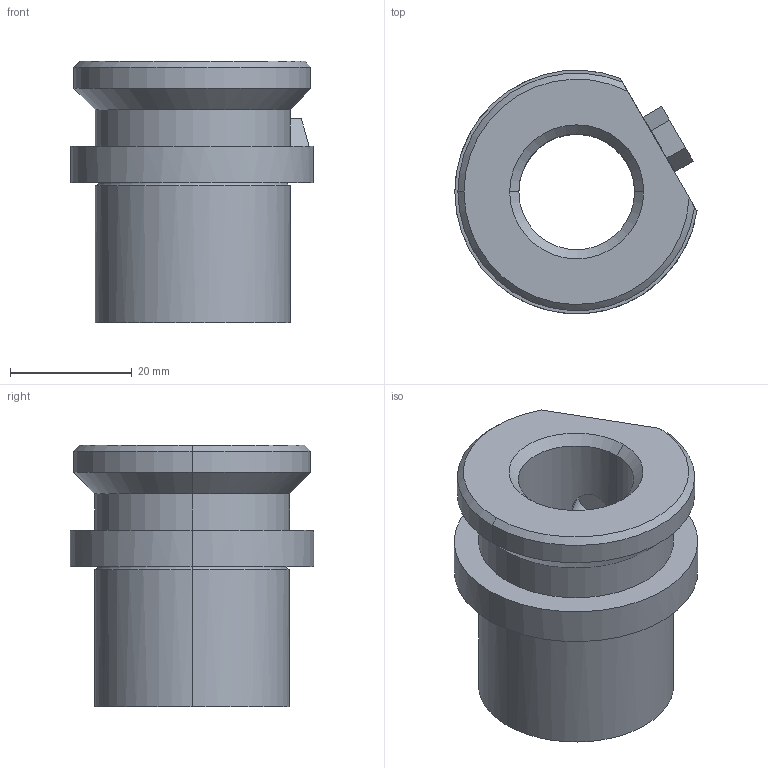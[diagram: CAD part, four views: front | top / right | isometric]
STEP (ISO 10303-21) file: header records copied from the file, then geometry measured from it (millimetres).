
FILE_DESCRIPTION(('CATIA V5 STEP Exchange'),'2;1');
FILE_NAME('C:\Users\Utente\Desktop\IO LAVORO\3D X SITO CF\X SITO\741\741-19.stp','2021-01-20T18:47:18+00:00',('none'),('none'),'CATIA Version 5 Release 20 GA (IN-10)','CATIA V5 STEP AP203','none');
FILE_SCHEMA(('CONFIG_CONTROL_DESIGN'));
Length unit declared in the file: millimetre
Products named in the file (1): 741-19
Assembly tree (1 placements, depth 2):
  741-19
    #58
Bounding box: 39.77 x 39.97 x 43 mm (x, y, z)
Volume: 26562.4 mm3; surface area: 9616.6 mm2
Topology: 1 solids, 1 shells, 45 faces, 108 edges, 68 vertices
Faces by surface type: plane 16, cylinder 15, cone 9, torus 5
Entity records: 1561 total; most frequent: CARTESIAN_POINT 507, ORIENTED_EDGE 214, DIRECTION 177, EDGE_CURVE 107, AXIS2_PLACEMENT_3D 79, VERTEX_POINT 68, VECTOR 54, LINE 54
